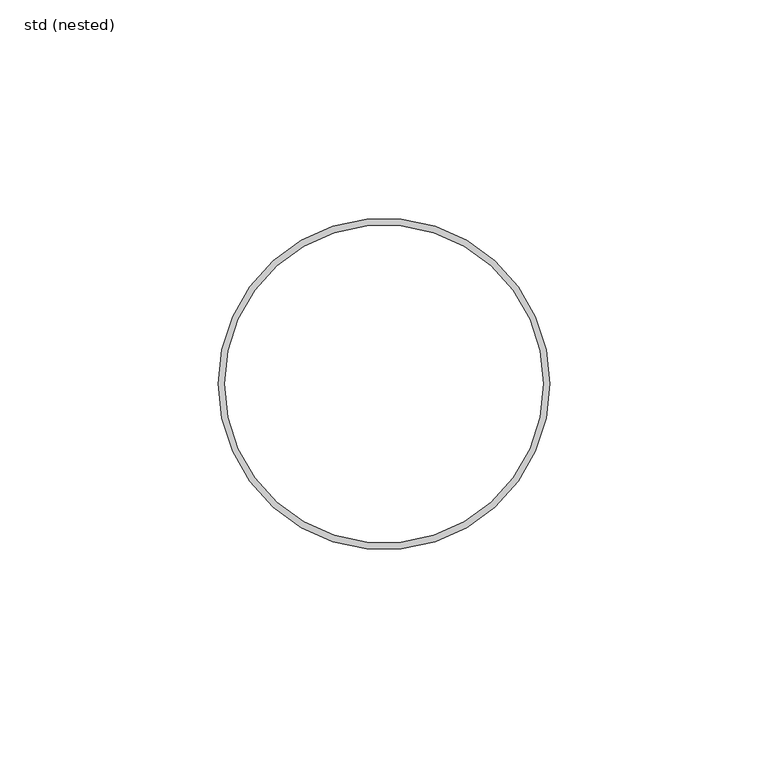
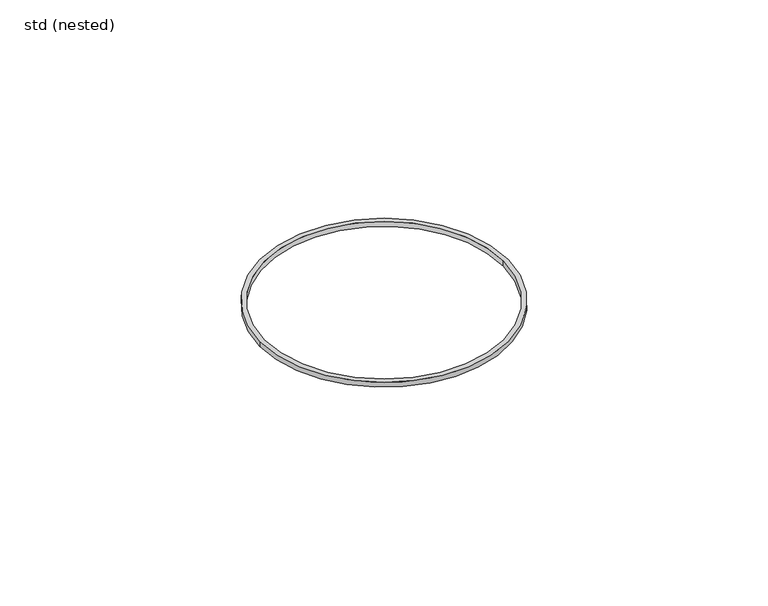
"""IFC4 building model written with IfcOpenShell, lengths in millimetres: pipe fitting geometry, ZZZ_do not use_PIF_GEN_WPB_GM-X (compound) pipe seal_ACO : std (nested)."""

from ifc_helpers import new_model, si_unit, point, origin, origin_with_axes, origin_2d, place, context, project, spatial, circle_curve, trimmed, segment, composite_curve, outline, extrude, source, transform, mapped, element, save


def std_nested_0347eb02(model_context):
    return source(origin(), model_context, "Body", "SweptSolid", [
        extrude(outline(composite_curve([segment(trimmed(circle_curve(origin_2d(), 38.0), [point((38.0, 0.0))], [point((-38.0, 0.0))], False, "CARTESIAN"), True, "CONTINUOUS"), segment(trimmed(circle_curve(origin_2d(), 38.0), [point((-38.0, 0.0))], [point((38.0, 0.0))], False, "CARTESIAN"), True, "CONTINUOUS")], self_intersect=False), holes=[composite_curve([segment(trimmed(circle_curve(origin_2d(), 36.5), [point((36.5, 0.0))], [point((-36.5, 0.0))], True, "CARTESIAN"), True, "CONTINUOUS"), segment(trimmed(circle_curve(origin_2d(), 36.5), [point((-36.5, 0.0))], [point((36.5, 0.0))], True, "CARTESIAN"), True, "CONTINUOUS")], self_intersect=False)]), origin_with_axes(), (0.0, 0.0, 1.0), 1.6),
    ])


if __name__ == "__main__":
    model = new_model("IFC4")
    model_context = context("Model", 3, world=origin())
    ifc_project = project(units=[si_unit("LENGTHUNIT", "METRE", prefix="MILLI")], contexts=[model_context])
    site = spatial("IfcSite", under=ifc_project)
    building = spatial("IfcBuilding", under=site)
    placement = place(None, origin())
    std_nested_shape = std_nested_0347eb02(model_context)
    element("IfcPipeFitting", 1, ObjectType="ZZZ_do not use_PIF_GEN_WPB_GM-X (compound) pipe seal_ACO : std (nested)", at=placement, inside=building, context=model_context, shape_type="MappedRepresentation", body=[
        mapped(std_nested_shape, transform((0.0, 0.0, 0.0), x_axis=(1.0, 0.0, 0.0), y_axis=(0.0, 1.0, 0.0), z_axis=(0.0, 0.0, 1.0))),
    ])
    save(model, "model.ifc")
